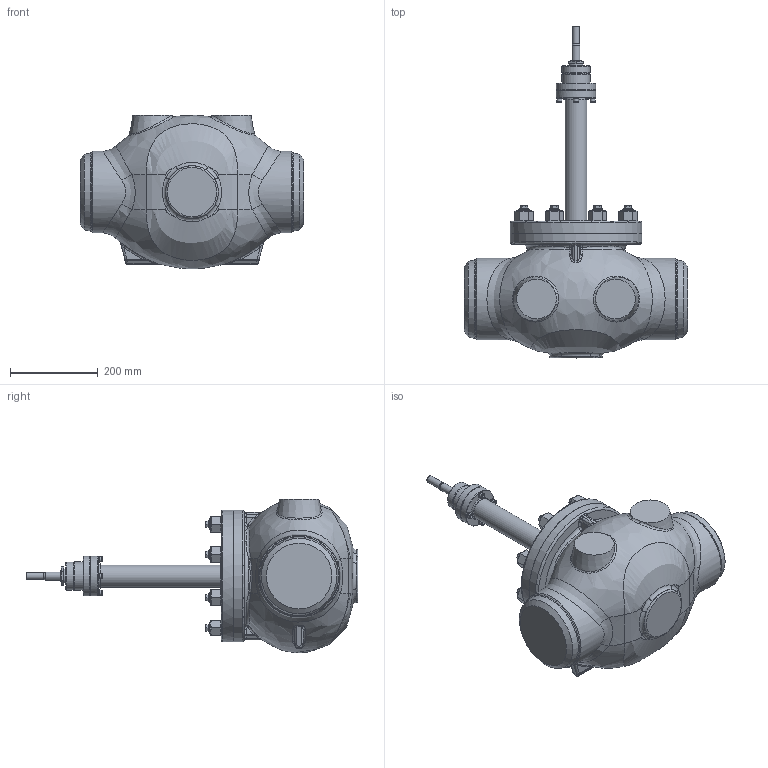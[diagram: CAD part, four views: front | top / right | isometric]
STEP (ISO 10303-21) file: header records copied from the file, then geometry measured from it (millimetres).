
FILE_DESCRIPTION(/* description */ (''),/* implementation_level */ '2;1');
FILE_NAME(/* name */ 'CV3xx_NPS_6_privarovaci_vlnovec.stp',/* time_stamp */ '2015-08-11T09:49:49+02:00',/* author */ (''),/* organization */ (''),/* preprocessor_version */ 'ST-DEVELOPER v15',/* originating_system */ 'SIEMENS PLM Software NX 8.5',/* authorisation */ '');
FILE_SCHEMA (('AP203_CONFIGURATION_CONTROLLED_3D_DESIGN_OF_MECHANICAL_PARTS_AND_ASSEMBLIES_MIM_LF { 1 0 10303 403 2 1 2}'));
Length unit declared in the file: millimetre
Products named in the file (1): adam1354300Cul5h
Bounding box: 508 x 756 x 349.7 mm (x, y, z)
Volume: 30085909.6 mm3; surface area: 819334.5 mm2
Topology: 1 solids, 1 shells, 728 faces, 1671 edges, 998 vertices
Faces by surface type: plane 245, cone 195, cylinder 145, bspline 80, torus 51, sphere 12
Full cylindrical faces by diameter (mm): 7 x4, 7.76 x4, 9 x4, 11.64 x4, 16 x1, 18 x1, 18.5 x8, 24 x24, 26 x8, 27 x1, 33 x1, 36 x16, 50 x1, 50.3 x2, 55 x1, 58 x1, 61.6 x1, 64 x1, 65 x1, 90 x2, 186 x2, 200 x1, 300 x2
Entity records: 22714 total; most frequent: CARTESIAN_POINT 8254, DIRECTION 2855, ORIENTED_EDGE 2836, EDGE_CURVE 1418, AXIS2_PLACEMENT_3D 1260, EDGE_LOOP 978, VERTEX_POINT 910, ADVANCED_FACE 728
